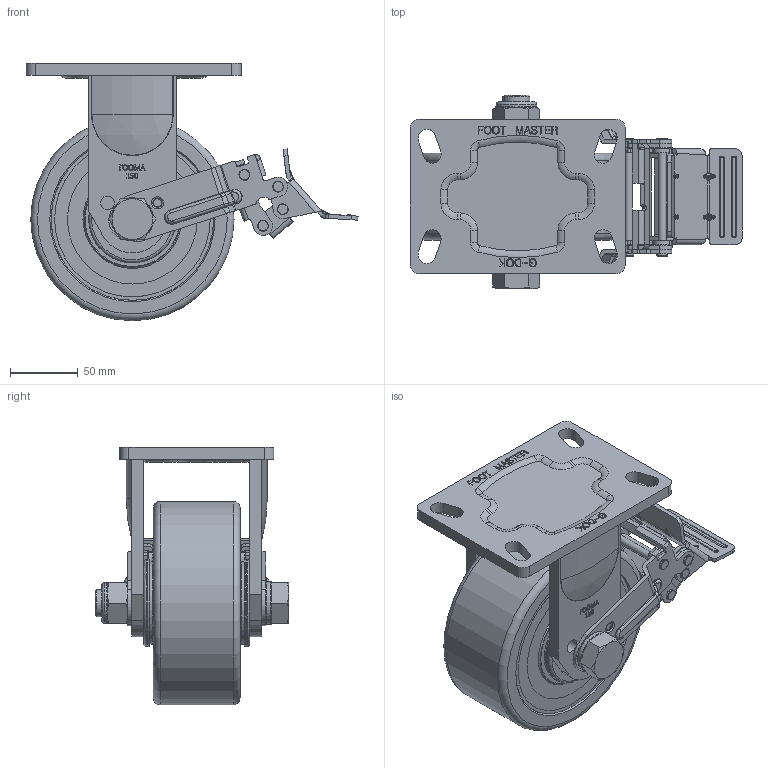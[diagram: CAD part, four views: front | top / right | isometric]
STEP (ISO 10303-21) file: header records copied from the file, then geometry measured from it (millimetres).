
FILE_DESCRIPTION(/* description */ (''),/* implementation_level */ '2;1');
FILE_NAME(/* name */ 'C:\Users\GR-DT-1-010\Desktop\GF-MCD\GF-150-MCD\step파일\GF-150-BRF-MCD.stp',/* time_stamp */ '2019-08-30T09:10:41+09:00',/* author */ ('GR-DT-1-010'),/* organization */ (''),/* preprocessor_version */ 'ST-DEVELOPER v16.13',/* originating_system */ 'Autodesk Inventor 2018',/* authorisation */ '');
FILE_SCHEMA (('AUTOMOTIVE_DESIGN { 1 0 10303 214 3 1 1 }'));
Length unit declared in the file: millimetre
Products named in the file (1): GF-RF-PLATE
Bounding box: 244.98 x 143 x 190 mm (x, y, z)
Volume: 38821.3 mm3; surface area: 208861.6 mm2
Topology: 5 solids, 7 shells, 1757 faces, 4715 edges, 3007 vertices
Faces by surface type: plane 594, bspline 530, cylinder 481, torus 108, cone 32, sphere 12
Full cylindrical faces by diameter (mm): 4 x4, 6 x4, 6.2 x18, 7 x2, 8 x8, 9.7 x2, 10 x4, 20 x3, 20.2 x4, 24.9 x2, 30 x1, 34 x2, 43 x2, 60.9 x2, 64.519 x2, 149.998 x1
Entity records: 62850 total; most frequent: CARTESIAN_POINT 22308, ORIENTED_EDGE 8988, DIRECTION 7308, EDGE_CURVE 4486, VERTEX_POINT 2936, AXIS2_PLACEMENT_3D 2554, LINE 2200, VECTOR 2200
